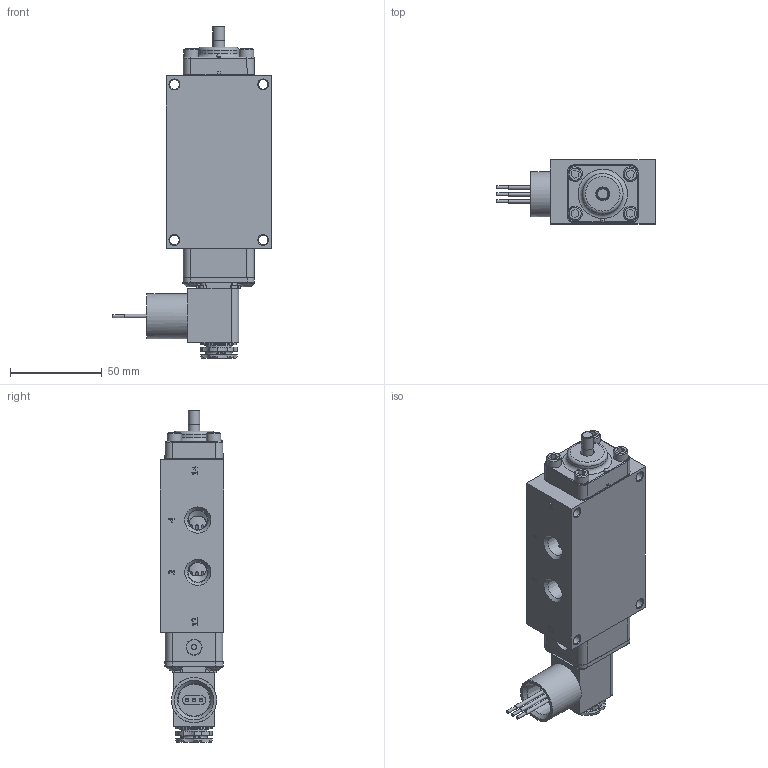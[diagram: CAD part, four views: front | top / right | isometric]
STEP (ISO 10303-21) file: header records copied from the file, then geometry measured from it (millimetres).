
FILE_DESCRIPTION(/* description */ (''),/* implementation_level */ '2;1');
FILE_NAME(/* name */ 'ZESO2JCKZ.stp',/* time_stamp */ '2026-07-30T08:10:17-04:00',/* author */ ('rmckenna'),/* organization */ (''),/* preprocessor_version */ 'ST-DEVELOPER v20.1',/* originating_system */ 'Autodesk Inventor 2026',/* authorisation */ '');
FILE_SCHEMA (('AUTOMOTIVE_DESIGN { 1 0 10303 214 3 1 1 }'));
Products named in the file (1): Part52
Bounding box: 86.37 x 34.92 x 181.24 mm (x, y, z)
Volume: 216468.6 mm3; surface area: 76973.8 mm2
Topology: 1 solids, 19 shells, 1564 faces, 3871 edges, 2464 vertices
Faces by surface type: plane 721, cylinder 374, cone 259, torus 115, bspline 90, sphere 5
Full cylindrical faces by diameter (mm): 1.168 x10, 1.3 x1, 1.397 x1, 1.5 x1, 1.524 x3, 2.032 x7, 2.35 x4, 2.381 x1, 2.8 x1, 2.819 x1, 3 x4, 3.048 x1, 3.175 x1, 3.4 x1, 3.683 x9, 4.191 x2, 4.394 x1, 4.826 x8, 4.953 x1, 5.15 x4, 5.156 x12, 5.5 x1, 6.35 x4, 6.553 x1, 7.29 x1, 7.541 x1, 7.938 x4, 8 x2, 8.052 x1, 8.153 x1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
Entity records: 56840 total; most frequent: CARTESIAN_POINT 18099, ORIENTED_EDGE 7720, DIRECTION 7618, EDGE_CURVE 3860, AXIS2_PLACEMENT_3D 2814, VERTEX_POINT 2462, LINE 1990, VECTOR 1990
